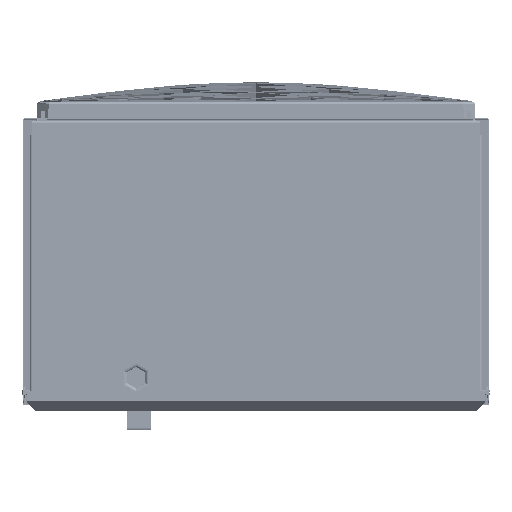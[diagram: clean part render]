
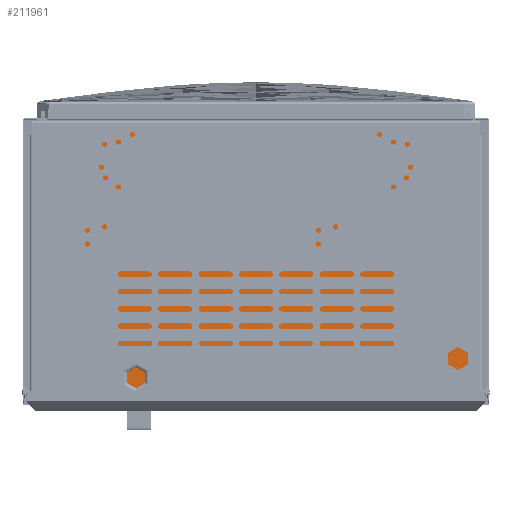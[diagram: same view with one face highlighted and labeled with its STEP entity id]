
A CAD part, front view. The second image highlights one B-rep face of the part: STEP entity #211961.
In plain terms, the highlighted planar face has unit normal (0, -1, 0).
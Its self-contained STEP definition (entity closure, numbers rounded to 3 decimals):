
#6013 = CARTESIAN_POINT ( 'NONE',  ( 0., 330.886, 0. ) ) ;
#33376 = ORIENTED_EDGE ( 'NONE', *, *, #125907, .F. ) ;
#39788 = ORIENTED_EDGE ( 'NONE', *, *, #389314, .F. ) ;
#52926 = VERTEX_POINT ( 'NONE', #166729 ) ;
#55575 = VERTEX_POINT ( 'NONE', #160266 ) ;
#58237 = CARTESIAN_POINT ( 'NONE',  ( 400.953, 330.886, 667.983 ) ) ;
#58674 = ORIENTED_EDGE ( 'NONE', *, *, #305332, .F. ) ;
#85993 = FACE_OUTER_BOUND ( 'NONE', #347241, .T. ) ;
#102494 = VERTEX_POINT ( 'NONE', #267109 ) ;
#125907 = EDGE_CURVE ( 'NONE', #382870, #55575, #513595, .T. ) ;
#131656 = PLANE ( 'NONE',  #494171 ) ;
#160266 = CARTESIAN_POINT ( 'NONE',  ( 400.953, 330.886, 429.956 ) ) ;
#166729 = CARTESIAN_POINT ( 'NONE',  ( 13.453, 330.886, 667.983 ) ) ;
#211961 = ADVANCED_FACE ( 'NONE', ( #85993 ), #131656, .F. ) ;
#218214 = DIRECTION ( 'NONE',  ( 1., 0., 0. ) ) ;
#228483 = DIRECTION ( 'NONE',  ( -1., 0., 0. ) ) ;
#267109 = CARTESIAN_POINT ( 'NONE',  ( 13.453, 330.886, 429.956 ) ) ;
#278383 = LINE ( 'NONE', #449547, #333495 ) ;
#287395 = LINE ( 'NONE', #405257, #297964 ) ;
#297964 = VECTOR ( 'NONE', #228483, 1000. ) ;
#305332 = EDGE_CURVE ( 'NONE', #102494, #52926, #278383, .T. ) ;
#305615 = DIRECTION ( 'NONE',  ( 0., 0., 1. ) ) ;
#329929 = VECTOR ( 'NONE', #379561, 1000. ) ;
#333495 = VECTOR ( 'NONE', #409592, 1000. ) ;
#347241 = EDGE_LOOP ( 'NONE', ( #33376, #356580, #58674, #39788 ) ) ;
#356580 = ORIENTED_EDGE ( 'NONE', *, *, #376440, .F. ) ;
#376440 = EDGE_CURVE ( 'NONE', #52926, #382870, #560599, .T. ) ;
#379561 = DIRECTION ( 'NONE',  ( 0., 0., -1. ) ) ;
#382870 = VERTEX_POINT ( 'NONE', #554032 ) ;
#389314 = EDGE_CURVE ( 'NONE', #55575, #102494, #287395, .T. ) ;
#405257 = CARTESIAN_POINT ( 'NONE',  ( 400.953, 330.886, 429.956 ) ) ;
#409592 = DIRECTION ( 'NONE',  ( 0., 0., 1. ) ) ;
#434963 = CARTESIAN_POINT ( 'NONE',  ( 400.953, 330.886, 667.983 ) ) ;
#445502 = VECTOR ( 'NONE', #218214, 1000. ) ;
#449547 = CARTESIAN_POINT ( 'NONE',  ( 13.453, 330.886, 667.983 ) ) ;
#494171 = AXIS2_PLACEMENT_3D ( 'NONE', #6013, #533681, #305615 ) ;
#513595 = LINE ( 'NONE', #58237, #329929 ) ;
#533681 = DIRECTION ( 'NONE',  ( 0., 1., 0. ) ) ;
#554032 = CARTESIAN_POINT ( 'NONE',  ( 400.953, 330.886, 667.983 ) ) ;
#560599 = LINE ( 'NONE', #434963, #445502 ) ;
